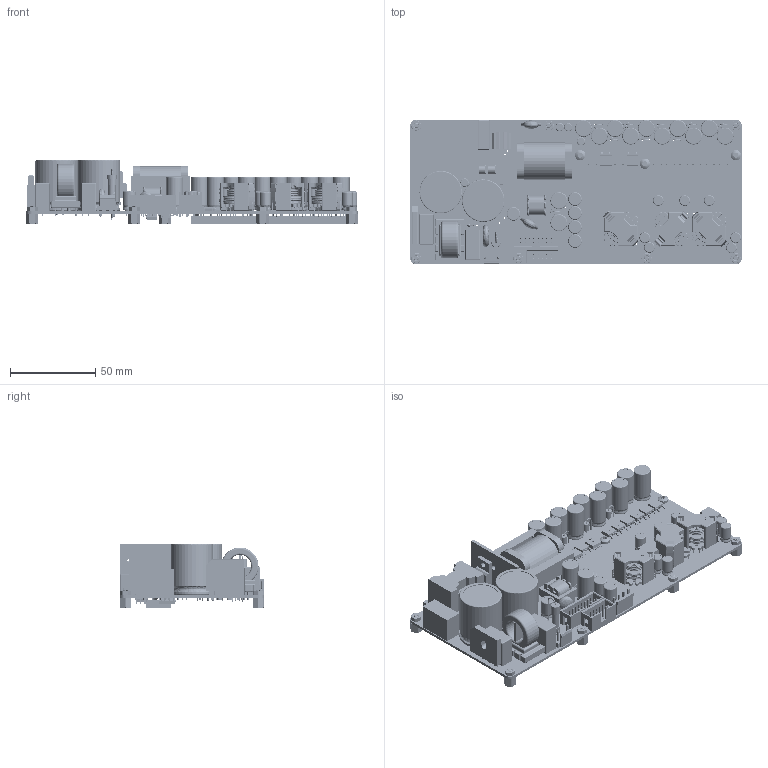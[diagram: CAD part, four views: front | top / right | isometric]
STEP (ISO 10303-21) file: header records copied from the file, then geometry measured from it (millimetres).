
FILE_DESCRIPTION (( 'STEP AP214' ), '1' );
FILE_NAME ('NCAS500MP 01xx.STEP', '2020-11-18T11:01:11', ( '' ), ( '' ), 'SwSTEP 2.0', 'SolidWorks 2017', '' );
FILE_SCHEMA (( 'AUTOMOTIVE_DESIGN' ));
Length unit declared in the file: millimetre
Products named in the file (128): TR3; C100; ECAP_5x11_2; L20; C26; D60; C62; J5; base; L11; L22; L9; HS2; Extruded; R56; Hsink_SAA10L1W1HT1; G1; TR2; C133; C80; C191; 5997656592; L13; C19; ECAP_8x11.5_5; __X2__0421043A043E04310430__X0___MIR; C127; JST_B2P3_VH; Board; CCER_P10mm; C52; DIL8_SM; L16; Fuse_vertical; C117; HS1; R48; C54; C22; C137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
Assembly tree (193 placements, depth 4):
  NCAS500MP 01xx
    Board
      Open CASCADE STEP translator 6.8 1.1.1
    C144
      ECAP_5x11_2
    G1
      2035-xx-sm
    G2
      2035-xx-sm
    U6
      User_Library-80072023_TO252
    C193
      ECAP_6.3x11_2.5
    C107
      ECAP_6.3x11_2.5
    C108
      5997656592
        Extruded
    T96
      TO-220FP
    C37
      ECAP_5x11_2
    C8
      5997656592
        Extruded
    L13
      User_Library-TRANS_PQ2625
    C173
      ECAP_8x11.5_5
    C22
      ECAP_25x30
    C21
      ECAP_25x30
    U18
      DIL8_SM
    TR3
      TR2126
    TR2
      FX3408_-_ETD34
    T95
      TO-220FP
    T88
      User_Library-80072023_TO252
    T83
      User_Library-80072023_TO252
    T57
      User_Library-80072023_TO252
    T56
      User_Library-80072023_TO252
    T49
      User_Library-80072023_TO252
    T48
      User_Library-80072023_TO252
    R56
      NTC_Inrush
    R48
      MRS25_UP
    L21
      BEAD_RAD_3.6x5_4
    L15
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Bounding box: 195.29 x 85.23 x 37.7 mm (x, y, z)
Volume: 158748.6 mm3; surface area: 121061 mm2
Topology: 190 solids, 190 shells, 9341 faces, 22781 edges, 13602 vertices
Faces by surface type: plane 3342, cylinder 3279, bspline 1732, cone 706, torus 242, sphere 40
Entity records: 173691 total; most frequent: CARTESIAN_POINT 39441, DIRECTION 19848, ORIENTED_EDGE 19490, EDGE_CURVE 9745, AXIS2_PLACEMENT_3D 7338, VERTEX_POINT 5983, LINE 5172, VECTOR 5172
